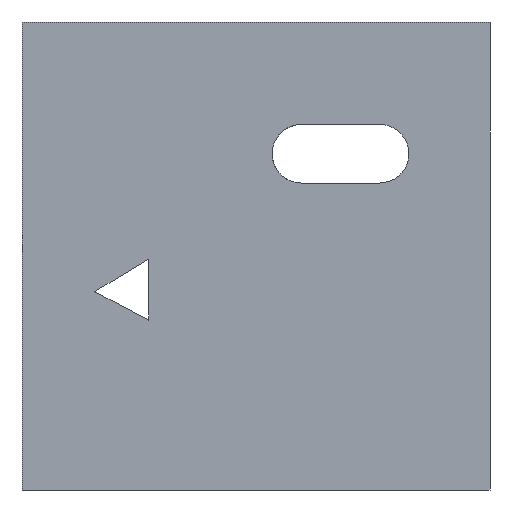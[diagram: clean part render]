
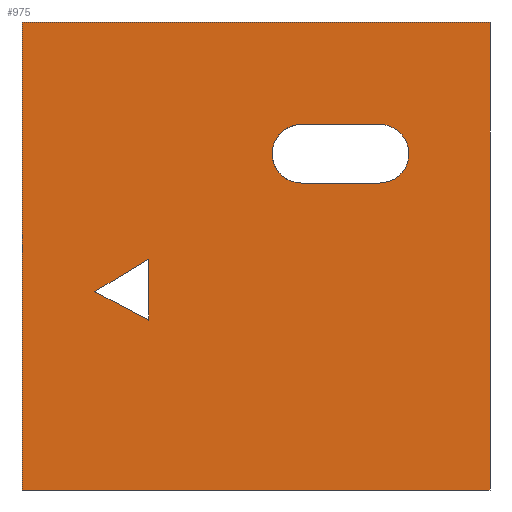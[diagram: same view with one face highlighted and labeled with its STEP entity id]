
A CAD part, left-side view. The second image highlights one B-rep face of the part: STEP entity #975.
In plain terms, the highlighted planar face has unit normal (-1, 0, 0).
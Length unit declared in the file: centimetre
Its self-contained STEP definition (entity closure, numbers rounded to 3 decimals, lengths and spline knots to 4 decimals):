
#20 = CARTESIAN_POINT ( 'NONE',  ( 0., 1000., 0. ) ) ;
#35 = EDGE_CURVE ( 'NONE', #1676, #116, #1173, .T. ) ;
#78 = LINE ( 'NONE', #1273, #545 ) ;
#83 = DIRECTION ( 'NONE',  ( 0., -1., 0. ) ) ;
#86 = ORIENTED_EDGE ( 'NONE', *, *, #35, .T. ) ;
#96 = ORIENTED_EDGE ( 'NONE', *, *, #1668, .F. ) ;
#116 = VERTEX_POINT ( 'NONE', #20 ) ;
#182 = CARTESIAN_POINT ( 'NONE',  ( 0., 1000., 0. ) ) ;
#206 = DIRECTION ( 'NONE',  ( 0., 0., -1. ) ) ;
#218 = DIRECTION ( 'NONE',  ( 0., -1., 0. ) ) ;
#227 = DIRECTION ( 'NONE',  ( 0., 0., -1. ) ) ;
#274 = EDGE_LOOP ( 'NONE', ( #1813, #1575, #96, #1645 ) ) ;
#276 = FACE_BOUND ( 'NONE', #715, .T. ) ;
#278 = AXIS2_PLACEMENT_3D ( 'NONE', #1529, #1167, #1853 ) ;
#322 = CARTESIAN_POINT ( 'NONE',  ( 0., 729.2272, 493.2993 ) ) ;
#352 = LINE ( 'NONE', #182, #1807 ) ;
#387 = DIRECTION ( 'NONE',  ( 0., 0., -1. ) ) ;
#393 = DIRECTION ( 'NONE',  ( 0., -1., 0. ) ) ;
#395 = VERTEX_POINT ( 'NONE', #1785 ) ;
#411 = CARTESIAN_POINT ( 'NONE',  ( 0., 235.7485, 655.848 ) ) ;
#448 = EDGE_CURVE ( 'NONE', #637, #395, #1270, .T. ) ;
#478 = DIRECTION ( 'NONE',  ( 0., 0., -1. ) ) ;
#515 = LINE ( 'NONE', #1220, #1322 ) ;
#545 = VECTOR ( 'NONE', #393, 100. ) ;
#637 = VERTEX_POINT ( 'NONE', #1293 ) ;
#643 = CARTESIAN_POINT ( 'NONE',  ( 0., 403.0244, 780.9395 ) ) ;
#687 = VERTEX_POINT ( 'NONE', #1316 ) ;
#714 = EDGE_CURVE ( 'NONE', #687, #2005, #1718, .T. ) ;
#715 = EDGE_LOOP ( 'NONE', ( #1124, #2193, #2077 ) ) ;
#729 = VERTEX_POINT ( 'NONE', #1387 ) ;
#753 = VECTOR ( 'NONE', #1867, 100. ) ;
#764 = CARTESIAN_POINT ( 'NONE',  ( 0., 1000., 1000. ) ) ;
#902 = ORIENTED_EDGE ( 'NONE', *, *, #1291, .F. ) ;
#933 = DIRECTION ( 'NONE',  ( -1., 0., 0. ) ) ;
#954 = AXIS2_PLACEMENT_3D ( 'NONE', #2180, #933, #1991 ) ;
#975 = ADVANCED_FACE ( 'NONE', ( #1678, #276, #1519 ), #1179, .F. ) ;
#986 = CIRCLE ( 'NONE', #1360, 62.5458 ) ;
#997 = CARTESIAN_POINT ( 'NONE',  ( 0., 403.0244, 655.848 ) ) ;
#998 = VECTOR ( 'NONE', #206, 100. ) ;
#1083 = CARTESIAN_POINT ( 'NONE',  ( 0., 1000., 1000. ) ) ;
#1124 = ORIENTED_EDGE ( 'NONE', *, *, #1478, .T. ) ;
#1167 = DIRECTION ( 'NONE',  ( 1., 0., 0. ) ) ;
#1173 = LINE ( 'NONE', #1083, #1259 ) ;
#1179 = PLANE ( 'NONE',  #278 ) ;
#1220 = CARTESIAN_POINT ( 'NONE',  ( 0., 844.5452, 423.7639 ) ) ;
#1256 = CARTESIAN_POINT ( 'NONE',  ( 0., 235.7485, 655.848 ) ) ;
#1259 = VECTOR ( 'NONE', #478, 100. ) ;
#1270 = LINE ( 'NONE', #1949, #998 ) ;
#1273 = CARTESIAN_POINT ( 'NONE',  ( 0., 1000., 1000. ) ) ;
#1291 = EDGE_CURVE ( 'NONE', #1676, #637, #78, .T. ) ;
#1292 = CARTESIAN_POINT ( 'NONE',  ( 0., 235.7485, 718.3938 ) ) ;
#1293 = CARTESIAN_POINT ( 'NONE',  ( 0., 0., 1000. ) ) ;
#1306 = LINE ( 'NONE', #411, #1690 ) ;
#1316 = CARTESIAN_POINT ( 'NONE',  ( 0., 235.7485, 780.9395 ) ) ;
#1322 = VECTOR ( 'NONE', #1925, 100. ) ;
#1360 = AXIS2_PLACEMENT_3D ( 'NONE', #1292, #1658, #227 ) ;
#1369 = CARTESIAN_POINT ( 'NONE',  ( 0., 403.0244, 780.9395 ) ) ;
#1387 = CARTESIAN_POINT ( 'NONE',  ( 0., 729.2272, 363.0981 ) ) ;
#1478 = EDGE_CURVE ( 'NONE', #729, #1770, #515, .T. ) ;
#1498 = VECTOR ( 'NONE', #1737, 100. ) ;
#1519 = FACE_OUTER_BOUND ( 'NONE', #1990, .T. ) ;
#1529 = CARTESIAN_POINT ( 'NONE',  ( 0., 1000., 1000. ) ) ;
#1550 = LINE ( 'NONE', #1928, #1498 ) ;
#1575 = ORIENTED_EDGE ( 'NONE', *, *, #1714, .F. ) ;
#1587 = VERTEX_POINT ( 'NONE', #1256 ) ;
#1616 = LINE ( 'NONE', #1971, #1624 ) ;
#1617 = EDGE_CURVE ( 'NONE', #116, #395, #352, .T. ) ;
#1624 = VECTOR ( 'NONE', #387, 100. ) ;
#1645 = ORIENTED_EDGE ( 'NONE', *, *, #1757, .F. ) ;
#1658 = DIRECTION ( 'NONE',  ( -1., 0., 0. ) ) ;
#1668 = EDGE_CURVE ( 'NONE', #1902, #1587, #1306, .T. ) ;
#1676 = VERTEX_POINT ( 'NONE', #764 ) ;
#1678 = FACE_BOUND ( 'NONE', #274, .T. ) ;
#1690 = VECTOR ( 'NONE', #83, 100. ) ;
#1714 = EDGE_CURVE ( 'NONE', #1587, #687, #986, .T. ) ;
#1718 = LINE ( 'NONE', #643, #753 ) ;
#1737 = DIRECTION ( 'NONE',  ( 0., -0.856, 0.516 ) ) ;
#1757 = EDGE_CURVE ( 'NONE', #2005, #1902, #1946, .T. ) ;
#1770 = VERTEX_POINT ( 'NONE', #1826 ) ;
#1785 = CARTESIAN_POINT ( 'NONE',  ( 0., 0., 0. ) ) ;
#1807 = VECTOR ( 'NONE', #218, 100. ) ;
#1813 = ORIENTED_EDGE ( 'NONE', *, *, #714, .F. ) ;
#1826 = CARTESIAN_POINT ( 'NONE',  ( 0., 844.5452, 423.7639 ) ) ;
#1841 = EDGE_CURVE ( 'NONE', #2102, #729, #1616, .T. ) ;
#1853 = DIRECTION ( 'NONE',  ( 0., 0., -1. ) ) ;
#1867 = DIRECTION ( 'NONE',  ( 0., 1., 0. ) ) ;
#1902 = VERTEX_POINT ( 'NONE', #997 ) ;
#1918 = ORIENTED_EDGE ( 'NONE', *, *, #448, .F. ) ;
#1925 = DIRECTION ( 'NONE',  ( 0., 0.885, 0.466 ) ) ;
#1928 = CARTESIAN_POINT ( 'NONE',  ( 0., 729.2272, 493.2993 ) ) ;
#1946 = CIRCLE ( 'NONE', #954, 62.5458 ) ;
#1949 = CARTESIAN_POINT ( 'NONE',  ( 0., 0., 1000. ) ) ;
#1971 = CARTESIAN_POINT ( 'NONE',  ( 0., 729.2272, 363.0981 ) ) ;
#1990 = EDGE_LOOP ( 'NONE', ( #2213, #1918, #902, #86 ) ) ;
#1991 = DIRECTION ( 'NONE',  ( 0., 0., -1. ) ) ;
#2005 = VERTEX_POINT ( 'NONE', #1369 ) ;
#2077 = ORIENTED_EDGE ( 'NONE', *, *, #1841, .T. ) ;
#2088 = EDGE_CURVE ( 'NONE', #1770, #2102, #1550, .T. ) ;
#2102 = VERTEX_POINT ( 'NONE', #322 ) ;
#2180 = CARTESIAN_POINT ( 'NONE',  ( 0., 403.0244, 718.3938 ) ) ;
#2193 = ORIENTED_EDGE ( 'NONE', *, *, #2088, .T. ) ;
#2213 = ORIENTED_EDGE ( 'NONE', *, *, #1617, .T. ) ;
